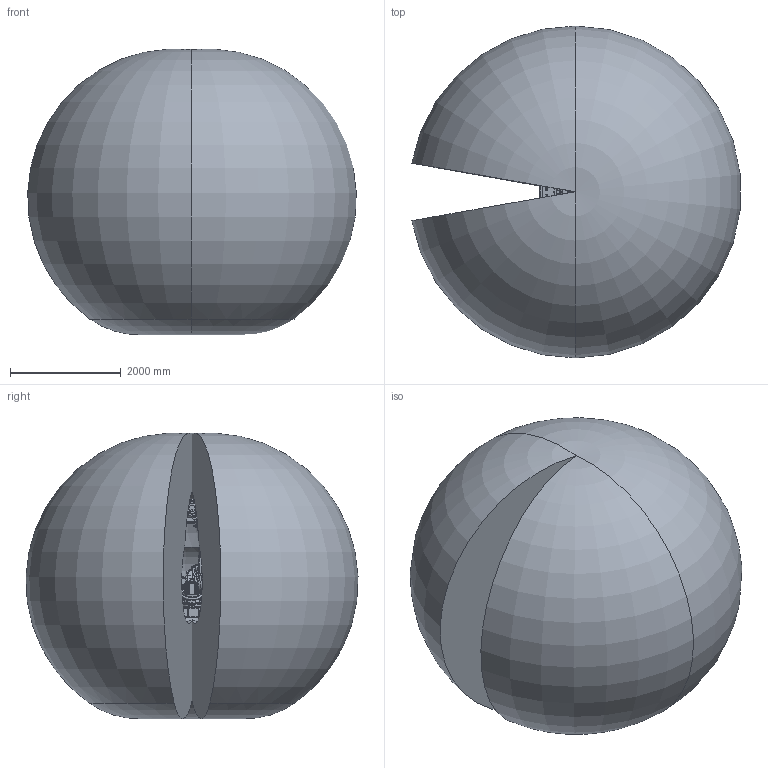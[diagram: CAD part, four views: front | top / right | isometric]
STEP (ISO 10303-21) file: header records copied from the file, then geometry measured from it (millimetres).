
FILE_DESCRIPTION (( 'STEP AP214' ), '1' );
FILE_NAME ('IRB5720_125kg-300_OC_02_ASM.step', '2025-07-08T10:09:58', ( '' ), ( '' ), 'SwSTEP 2.0', 'SolidWorks 2024', '' );
FILE_SCHEMA (( 'AUTOMOTIVE_DESIGN' ));
Length unit declared in the file: millimetre
Products named in the file (12): IRB5720_125kg-300_OmniCore_rev00_LINK02_CAD; IRB5720_125kg-300_OmniCore_rev00_LINK02m_CABLE; IRB5720_125kg-300_OmniCore_rev00_LINK03m_CABLE; IRB5720_125kg-300_OmniCore_rev00_LINK04_CAD; IRB5720_125kg-300_OmniCore_rev00_LINK05_CAD; IRB5720_125kg-300_OmniCore_rev01_LINK03_CAD; IRB5720_125kg-300_OmniCore_rev00_LINK01m_CABLE; IRB5720_125kg-300_OmniCore_rev00_LINK06_CAD; IRB5720_125kg-300_OmniCore_rev00_LINK01_CAD; IRB5720_125kg-300_OmniCore_rev00_Working-space; IRB5720_125kg-300_OC_02_ASM; IRB5720_125kg-300_OC_01_BASE_CAD
Assembly tree (11 placements, depth 2):
  IRB5720_125kg-300_OC_02_ASM
    IRB5720_125kg-300_OC_01_BASE_CAD
    IRB5720_125kg-300_OmniCore_rev00_LINK01_CAD
    IRB5720_125kg-300_OmniCore_rev00_LINK02_CAD
    IRB5720_125kg-300_OmniCore_rev01_LINK03_CAD
    IRB5720_125kg-300_OmniCore_rev00_LINK04_CAD
    IRB5720_125kg-300_OmniCore_rev00_LINK05_CAD
    IRB5720_125kg-300_OmniCore_rev00_LINK06_CAD
    IRB5720_125kg-300_OmniCore_rev00_LINK01m_CABLE
    IRB5720_125kg-300_OmniCore_rev00_LINK02m_CABLE
    IRB5720_125kg-300_OmniCore_rev00_LINK03m_CABLE
    IRB5720_125kg-300_OmniCore_rev00_Working-space
Bounding box: 5935.91 x 5997.9 x 5154.8 mm (x, y, z)
Volume: 93988741450.2 mm3; surface area: 147129396.8 mm2
Topology: 16 solids, 41 shells, 6602 faces, 16749 edges, 10757 vertices
Faces by surface type: plane 3222, cylinder 1921, cone 832, bspline 467, torus 136, sphere 24
Entity records: 291366 total; most frequent: CARTESIAN_POINT 119991, ORIENTED_EDGE 33174, DIRECTION 30339, EDGE_CURVE 16587, AXIS2_PLACEMENT_3D 10966, VERTEX_POINT 10757, LINE 8407, VECTOR 8407
